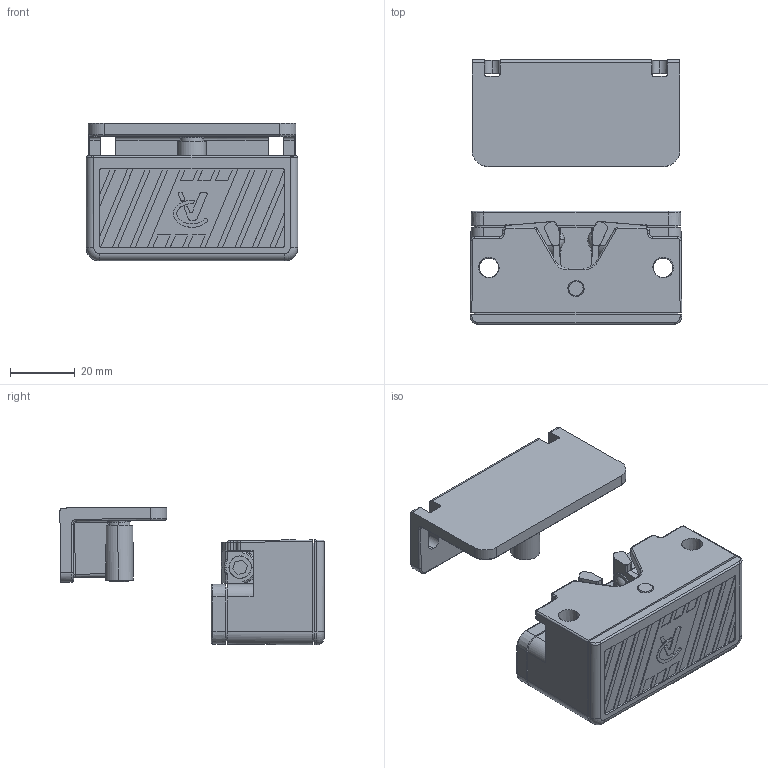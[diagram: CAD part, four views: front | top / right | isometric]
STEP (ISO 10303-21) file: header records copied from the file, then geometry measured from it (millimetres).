
FILE_DESCRIPTION (( 'STEP AP214' ), '1' );
FILE_NAME ('013.100.075.STEP', '2024-02-22T08:19:15', ( '' ), ( '' ), 'SwSTEP 2.0', 'SolidWorks 2021', '' );
FILE_SCHEMA (( 'AUTOMOTIVE_DESIGN' ));
Length unit declared in the file: millimetre
Products named in the file (12): 013.100.070G; 013.100.070K; 013.100.075; SFERA06; 0520UNI8735; 013.100.070E; 013.100.070B; 013.100.070A; 013.100.070F; 013.100.070D; 013.100.070J; 013.100.070 PARTE MOBILE
Assembly tree (14 placements, depth 3):
  013.100.075
    013.100.070A
    013.100.070 PARTE MOBILE
      013.100.070B
      SFERA06  x2
      013.100.070G  x2
      0520UNI8735
      013.100.070F  x2
    013.100.070D
    013.100.070K
    013.100.070E
    013.100.070J
Bounding box: 65.5 x 81.87 x 42.67 mm (x, y, z)
Volume: 56283.8 mm3; surface area: 45425.6 mm2
Topology: 13 solids, 15 shells, 991 faces, 2552 edges, 1609 vertices
Faces by surface type: plane 436, cone 216, cylinder 196, bspline 78, torus 51, sphere 14
Entity records: 33433 total; most frequent: CARTESIAN_POINT 10560, ORIENTED_EDGE 4912, DIRECTION 4424, EDGE_CURVE 2456, VERTEX_POINT 1561, AXIS2_PLACEMENT_3D 1555, VECTOR 1314, LINE 1314
